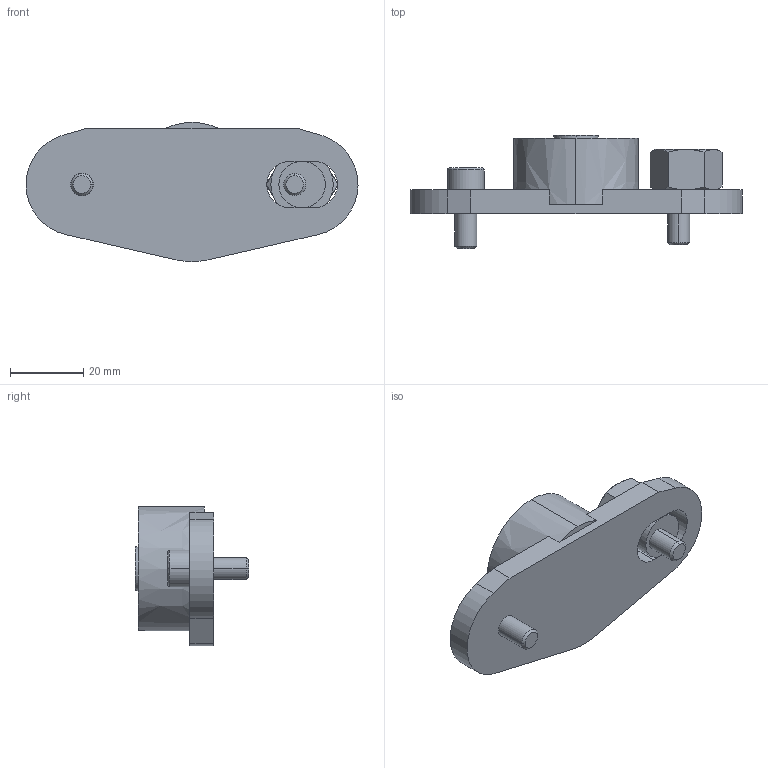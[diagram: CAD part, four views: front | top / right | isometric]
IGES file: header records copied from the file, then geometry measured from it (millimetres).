
Start section: 3D InterOp IGES (v. 2019 1.0.2), Spatial Corp. Copyright (c) 1999-2017.
Global section: file name: BHR 34 E.igs; native system: Spatial Corp.; preprocessor: 3D InterOp GENERIC/IGES 3.0; author: Noname; organization: Noname; date: 20220628.172229; units: millimetre
Bounding box: 90.49 x 30.8 x 37.92 mm (x, y, z)
Surface area: 10659.1 mm2 (no closed solid volume)
Topology: 0 solids, 0 shells, 107 faces, 502 edges, 500 vertices
Faces by surface type: revolution 53, extrusion 52, bspline 2
